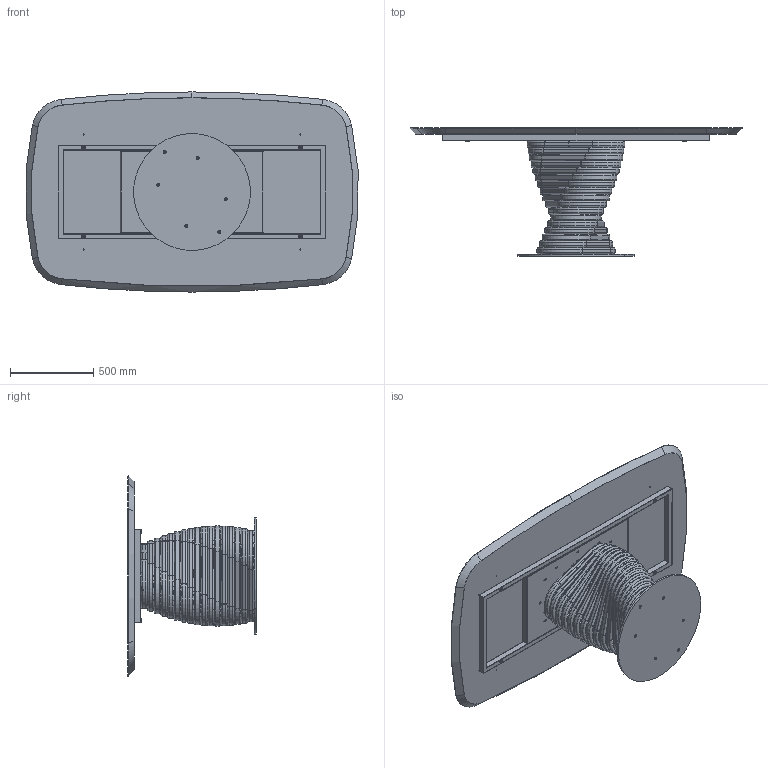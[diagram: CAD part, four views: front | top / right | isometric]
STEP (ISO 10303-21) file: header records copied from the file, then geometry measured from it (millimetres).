
FILE_DESCRIPTION (( 'STEP AP203' ), '1' );
FILE_NAME ('RO41W.STEP', '2024-08-07T13:38:46', ( '' ), ( '' ), 'SwSTEP 2.0', 'SolidWorks 2022', '' );
FILE_SCHEMA (( 'CONFIG_CONTROL_DESIGN' ));
Length unit declared in the file: millimetre
Products named in the file (15): COLLO TELAIO UNIVERSALE TTAV01 CON FERRAMENTA_MTG TOP LEGNO-MARMO-KING; M8xXXmm_M8x55mm; RO41W; M8xXXmm_M8x20mm; ROB200000-00-PIASTRA BASE_Ø70cm; TTAV01_01-05-TELAIO UNIVERSALE X TAVOLI 180 240cm; TTAV01_02-05-VASSOIO IRRIGIDIMENTO TELAIO UNIVERSALE; ROBX00000INF-00-Anello rotolo INFERIORE_Default<A macchina>; ROBX00000-00-ROTOLO BASE 17 ANELLI; M8xXXmm_hex_M8X20mm; ROBX00000MED-00-Anello rotolo MEDIO_Default<A macchina>; ROBX00000SUP-00-Anello rotolo SUPERIORE_Default<A macchina>; W4XCMXX-00-Piani Sagomati legno_ 2000 x 1200; rondella M8_8X24; TTAV01-05-TELAIO UNIVERSALE X TAVOLI 180 240cm
Assembly tree (46 placements, depth 4):
  RO41W
    ROB200000-00-PIASTRA BASE_Ø70cm
    ROBX00000-00-ROTOLO BASE 17 ANELLI
      ROBX00000INF-00-Anello rotolo INFERIORE_Default<A macchina>
      ROBX00000MED-00-Anello rotolo MEDIO_Default<A macchina>  x15
      ROBX00000SUP-00-Anello rotolo SUPERIORE_Default<A macchina>
    M8xXXmm_hex_M8X20mm  x6
    COLLO TELAIO UNIVERSALE TTAV01 CON FERRAMENTA_MTG TOP LEGNO-MARMO-KING
      TTAV01-05-TELAIO UNIVERSALE X TAVOLI 180 240cm
        TTAV01_02-05-VASSOIO IRRIGIDIMENTO TELAIO UNIVERSALE
        TTAV01_01-05-TELAIO UNIVERSALE X TAVOLI 180 240cm
      rondella M8_8X24  x4
      M8xXXmm_M8x55mm  x4
    rondella M8_8X24  x4
    M8xXXmm_M8x20mm  x4
    W4XCMXX-00-Piani Sagomati legno_ 2000 x 1200
Bounding box: 1990.53 x 770 x 1200 mm (x, y, z)
Volume: 94638621.7 mm3; surface area: 12425198.4 mm2
Topology: 94 solids, 94 shells, 1687 faces, 4008 edges, 2465 vertices
Faces by surface type: plane 654, cylinder 591, torus 253, cone 181, sphere 8
Entity records: 23363 total; most frequent: CARTESIAN_POINT 5185, DIRECTION 3450, ORIENTED_EDGE 3140, EDGE_CURVE 1570, AXIS2_PLACEMENT_3D 1313, VERTEX_POINT 986, LINE 824, VECTOR 824
